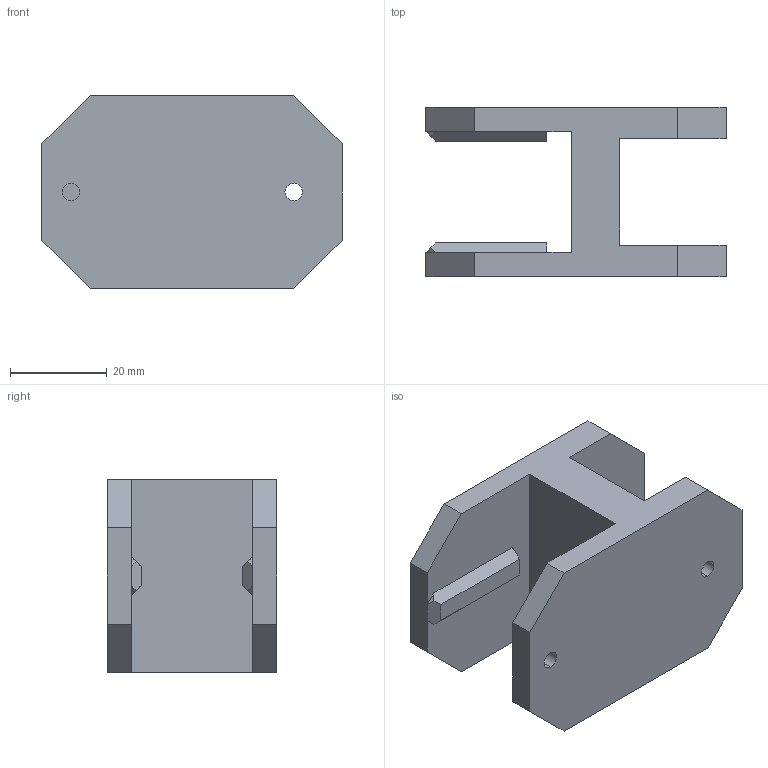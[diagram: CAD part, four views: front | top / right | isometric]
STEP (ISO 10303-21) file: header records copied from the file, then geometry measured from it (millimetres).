
FILE_DESCRIPTION (( 'STEP AP203' ), '1' );
FILE_NAME ('gripperholder.STEP', '2017-06-25T11:39:03', ( '' ), ( '' ), 'SwSTEP 2.0', 'SolidWorks 2016', '' );
FILE_SCHEMA (( 'CONFIG_CONTROL_DESIGN' ));
Length unit declared in the file: millimetre
Products named in the file (1): gripperholder
Bounding box: 62 x 35 x 40 mm (x, y, z)
Volume: 35481.9 mm3; surface area: 13057.8 mm2
Topology: 1 solids, 1 shells, 46 faces, 122 edges, 80 vertices
Faces by surface type: plane 38, cylinder 8
Entity records: 1495 total; most frequent: CARTESIAN_POINT 249, ORIENTED_EDGE 244, DIRECTION 232, EDGE_CURVE 122, VECTOR 106, LINE 106, VERTEX_POINT 80, AXIS2_PLACEMENT_3D 63
